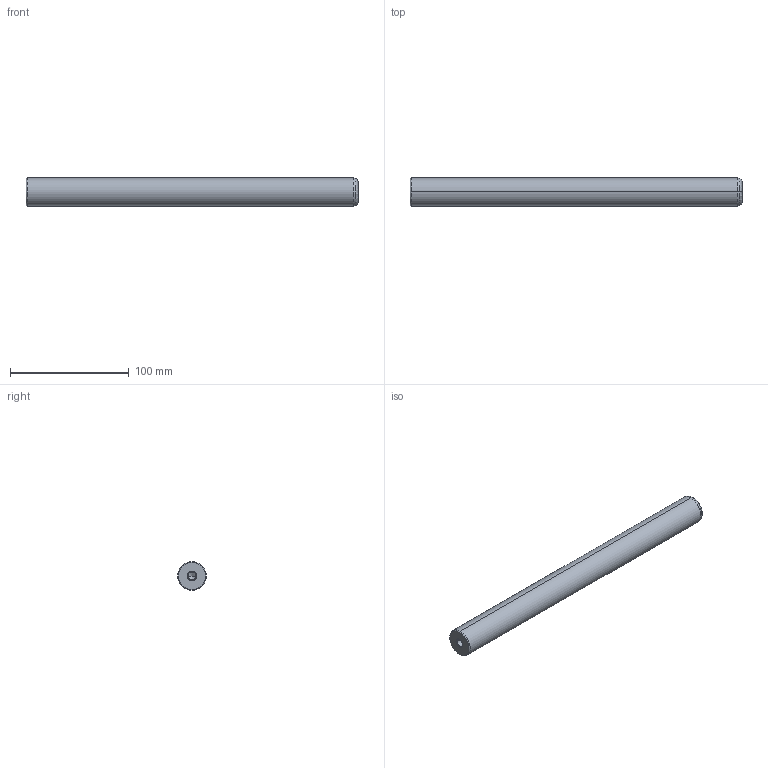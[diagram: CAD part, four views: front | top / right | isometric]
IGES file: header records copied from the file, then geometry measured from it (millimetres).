
Start section: START RECORD GO HERE.
Global section: file name: 720-24x280.igs; native system: DASSAULT SYSTEMES CATIA V5 R20 - www.3ds.com; preprocessor: CATIA Version 5 Release 20 ; author: Utente; organization: NB04-ASUS; date: 20210101.134942; units: millimetre
Bounding box: 280 x 24 x 24 mm (x, y, z)
Surface area: 22851.5 mm2 (no closed solid volume)
Topology: 0 solids, 0 shells, 22 faces, 108 edges, 104 vertices
Faces by surface type: revolution 20, plane 2
